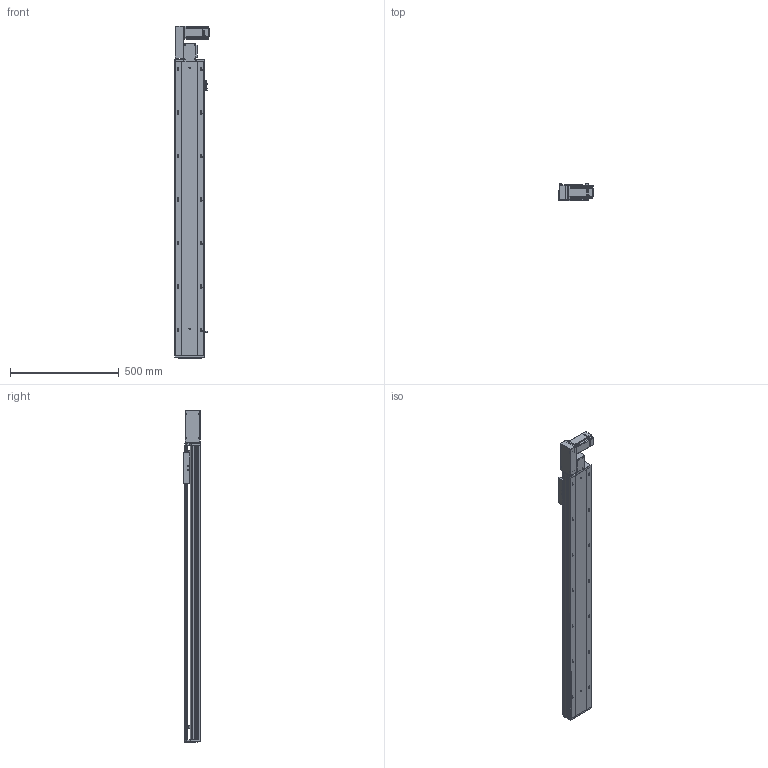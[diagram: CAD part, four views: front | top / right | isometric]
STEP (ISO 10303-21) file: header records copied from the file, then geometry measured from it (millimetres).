
FILE_DESCRIPTION (( 'STEP AP203' ), '1' );
FILE_NAME ('RY140-T-300-LK.SLDASM_1100.step', '2021-03-01T06:35:43', ( '盈信电脑' ), ( '东莞市道滘镇水果街19号' ), 'SwSTEP 2.0', 'SolidWorks 2012', '' );
FILE_SCHEMA (( 'CONFIG_CONTROL_DESIGN' ));
Length unit declared in the file: millimetre
Products named in the file (18): RY140-T翋肮謫裔啣; RY140-T-300-LK.SLDASM_1100; 滅袉蝶18-10; RY140-T萇儂欶; RY120-T蹟翐M4; RY120-T主同步轮轴承压盖; RY140-T萇儂假蚾啣; 15; 侂狟400W侜督萇儂; RY140-T翋肮祭謫盓傅釱; 覜茼ん672; RY120-T肮祭湍揤踡輸2; RY120-T肮祭湍揤踡輸1; RY120外置感应片(140共用）; RY140-T-300-DL倰第奻裔啣_1100; RY140-T-300-DL倰第菁釱_1100; RY140肮祭謫臏賑輸; RY140綴裔啣
Assembly tree (23 placements, depth 3):
  RY140-T-300-LK.SLDASM_1100
    RY140-T-300-DL倰第菁釱_1100
    RY140肮祭謫臏賑輸
    RY140-T-300-DL倰第奻裔啣_1100
    RY140綴裔啣
    覜茼ん672  x3
    RY120外置感应片(140共用）
    RY120-T肮祭湍揤踡輸2
    RY120-T肮祭湍揤踡輸1
    RY140-T翋肮祭謫盓傅釱
    RY140-T萇儂假蚾啣
    侂狟400W侜督萇儂
      15
    RY120-T主同步轮轴承压盖
    RY120-T蹟翐M4  x4
    RY140-T萇儂欶
    滅袉蝶18-10  x2
    RY140-T翋肮謫裔啣
Bounding box: 157 x 78 x 1526.5 mm (x, y, z)
Volume: 4237440 mm3; surface area: 1621764.8 mm2
Topology: 22 solids, 22 shells, 2679 faces, 7317 edges, 4688 vertices
Faces by surface type: plane 1381, cylinder 972, cone 226, bspline 100
Entity records: 84485 total; most frequent: CARTESIAN_POINT 20551, ORIENTED_EDGE 13106, DIRECTION 12497, EDGE_CURVE 6553, VERTEX_POINT 4287, VECTOR 4209, LINE 4209, AXIS2_PLACEMENT_3D 4144
